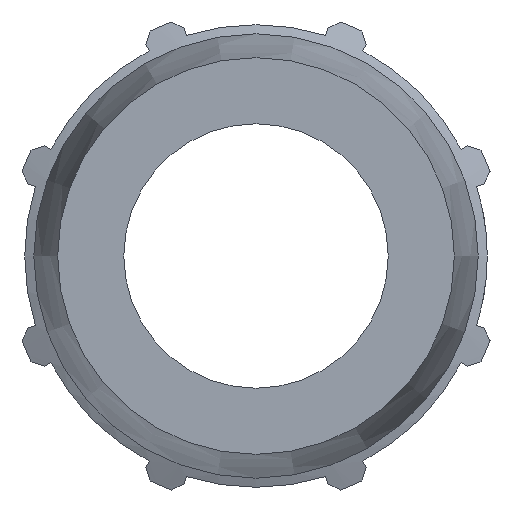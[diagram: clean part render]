
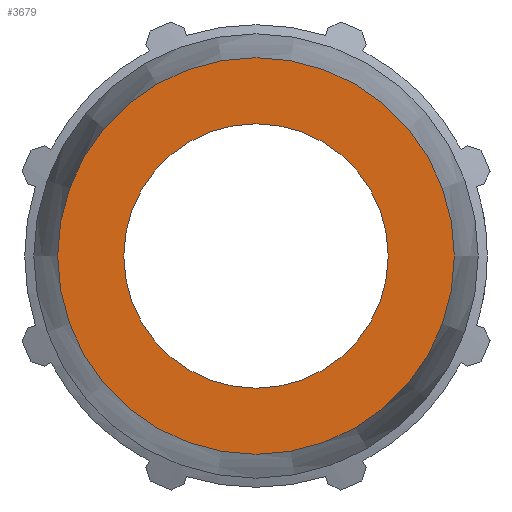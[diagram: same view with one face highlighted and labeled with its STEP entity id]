
A CAD part, left-side view. The second image highlights one B-rep face of the part: STEP entity #3679.
In plain terms, the highlighted planar face has unit normal (-1, 0, 0).
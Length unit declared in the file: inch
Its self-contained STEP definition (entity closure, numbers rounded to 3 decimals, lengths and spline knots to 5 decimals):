
#120=FACE_BOUND('',#521,.T.);
#176=PLANE('',#4005);
#315=FACE_OUTER_BOUND('',#520,.T.);
#520=EDGE_LOOP('',(#2900,#2901));
#521=EDGE_LOOP('',(#2902,#2903));
#755=CIRCLE('',#4003,1.77461);
#756=CIRCLE('',#4004,1.77461);
#757=CIRCLE('',#4006,1.18307);
#758=CIRCLE('',#4007,1.18307);
#1658=VERTEX_POINT('',#6030);
#1659=VERTEX_POINT('',#6031);
#1660=VERTEX_POINT('',#6036);
#1661=VERTEX_POINT('',#6037);
#2118=EDGE_CURVE('',#1658,#1659,#755,.T.);
#2120=EDGE_CURVE('',#1659,#1658,#756,.T.);
#2121=EDGE_CURVE('',#1660,#1661,#757,.T.);
#2122=EDGE_CURVE('',#1661,#1660,#758,.T.);
#2900=ORIENTED_EDGE('',*,*,#2118,.F.);
#2901=ORIENTED_EDGE('',*,*,#2120,.F.);
#2902=ORIENTED_EDGE('',*,*,#2121,.T.);
#2903=ORIENTED_EDGE('',*,*,#2122,.T.);
#3679=ADVANCED_FACE('',(#315,#120),#176,.F.);
#4003=AXIS2_PLACEMENT_3D('',#6032,#4720,#4721);
#4004=AXIS2_PLACEMENT_3D('',#6034,#4723,#4724);
#4005=AXIS2_PLACEMENT_3D('',#6035,#4725,#4726);
#4006=AXIS2_PLACEMENT_3D('',#6038,#4727,#4728);
#4007=AXIS2_PLACEMENT_3D('',#6039,#4729,#4730);
#4720=DIRECTION('center_axis',(1.,0.,0.));
#4721=DIRECTION('ref_axis',(0.,0.,-1.));
#4723=DIRECTION('center_axis',(1.,0.,0.));
#4724=DIRECTION('ref_axis',(0.,0.,-1.));
#4725=DIRECTION('center_axis',(1.,0.,0.));
#4726=DIRECTION('ref_axis',(0.,0.,-1.));
#4727=DIRECTION('center_axis',(1.,0.,0.));
#4728=DIRECTION('ref_axis',(0.,0.,-1.));
#4729=DIRECTION('center_axis',(1.,0.,0.));
#4730=DIRECTION('ref_axis',(0.,0.,-1.));
#6030=CARTESIAN_POINT('',(-5.31,1.77461,0.));
#6031=CARTESIAN_POINT('',(-5.31,-1.77461,0.));
#6032=CARTESIAN_POINT('Origin',(-5.31,0.,0.));
#6034=CARTESIAN_POINT('Origin',(-5.31,0.,0.));
#6035=CARTESIAN_POINT('Origin',(-5.31,1.18307,0.));
#6036=CARTESIAN_POINT('',(-5.31,1.18307,0.));
#6037=CARTESIAN_POINT('',(-5.31,-1.18307,0.));
#6038=CARTESIAN_POINT('Origin',(-5.31,0.,0.));
#6039=CARTESIAN_POINT('Origin',(-5.31,0.,0.));
